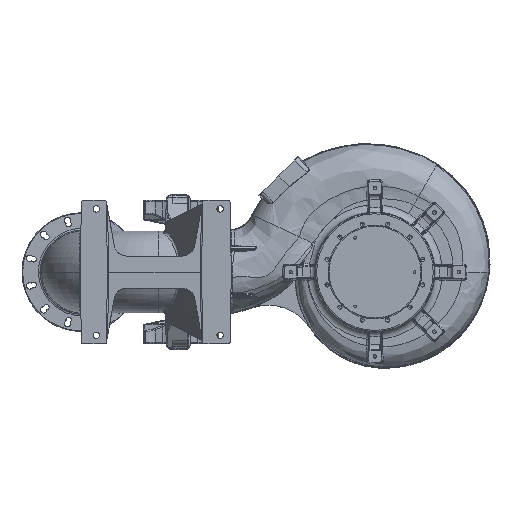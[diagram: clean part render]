
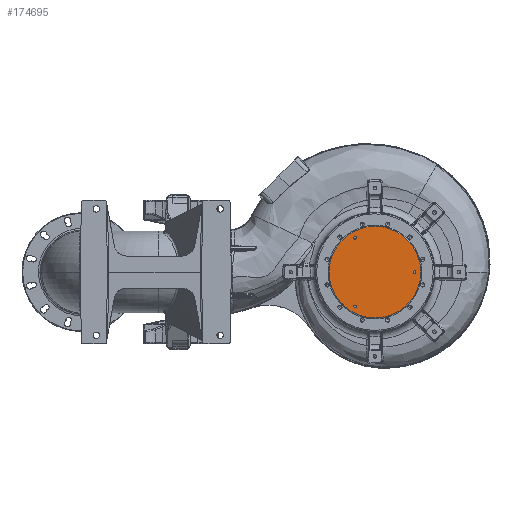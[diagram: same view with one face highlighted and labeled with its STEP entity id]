
A CAD part, front view. The second image highlights one B-rep face of the part: STEP entity #174695.
In plain terms, the highlighted planar face has unit normal (0, -1, 0).
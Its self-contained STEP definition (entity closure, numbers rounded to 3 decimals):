
#4983 = EDGE_CURVE ( 'NONE', #62776, #101580, #105221, .T. ) ;
#7238 = CARTESIAN_POINT ( 'NONE',  ( 785., 0., 0. ) ) ;
#8303 = DIRECTION ( 'NONE',  ( -1., 0., 0. ) ) ;
#13936 = DIRECTION ( 'NONE',  ( -1., 0., 0. ) ) ;
#14377 = CARTESIAN_POINT ( 'NONE',  ( 625., 0., 0. ) ) ;
#16866 = CARTESIAN_POINT ( 'NONE',  ( 550.1, 0., 138.564 ) ) ;
#17380 = VERTEX_POINT ( 'NONE', #43164 ) ;
#22667 = ORIENTED_EDGE ( 'NONE', *, *, #76229, .F. ) ;
#24255 = AXIS2_PLACEMENT_3D ( 'NONE', #14377, #144137, #32970 ) ;
#25773 = DIRECTION ( 'NONE',  ( -1., 0., 0. ) ) ;
#28595 = EDGE_CURVE ( 'NONE', #134896, #239122, #30715, .T. ) ;
#29616 = CIRCLE ( 'NONE', #164005, 5.1 ) ;
#30715 = CIRCLE ( 'NONE', #149480, 185. ) ;
#31295 = FACE_OUTER_BOUND ( 'NONE', #220974, .T. ) ;
#32970 = DIRECTION ( 'NONE',  ( 1., 0., 0. ) ) ;
#40539 = AXIS2_PLACEMENT_3D ( 'NONE', #191202, #80175, #209855 ) ;
#43164 = CARTESIAN_POINT ( 'NONE',  ( 779.9, 0., 0. ) ) ;
#45353 = DIRECTION ( 'NONE',  ( 0., 1., 0. ) ) ;
#47510 = AXIS2_PLACEMENT_3D ( 'NONE', #196055, #85054, #214629 ) ;
#56500 = CIRCLE ( 'NONE', #204563, 5.1 ) ;
#61343 = EDGE_CURVE ( 'NONE', #220607, #200053, #29616, .T. ) ;
#61414 = VERTEX_POINT ( 'NONE', #95581 ) ;
#62776 = VERTEX_POINT ( 'NONE', #213162 ) ;
#73968 = CARTESIAN_POINT ( 'NONE',  ( 545., 0., 138.564 ) ) ;
#74525 = CIRCLE ( 'NONE', #79352, 5.1 ) ;
#74584 = ORIENTED_EDGE ( 'NONE', *, *, #166115, .F. ) ;
#76229 = EDGE_CURVE ( 'NONE', #200053, #220607, #56500, .T. ) ;
#79352 = AXIS2_PLACEMENT_3D ( 'NONE', #7238, #136946, #25773 ) ;
#80175 = DIRECTION ( 'NONE',  ( 0., -1., 0. ) ) ;
#80782 = FACE_BOUND ( 'NONE', #151086, .T. ) ;
#85054 = DIRECTION ( 'NONE',  ( 0., 1., 0. ) ) ;
#85452 = ORIENTED_EDGE ( 'NONE', *, *, #132403, .F. ) ;
#90617 = ORIENTED_EDGE ( 'NONE', *, *, #177266, .F. ) ;
#92639 = DIRECTION ( 'NONE',  ( -1., 0., 0. ) ) ;
#93165 = CARTESIAN_POINT ( 'NONE',  ( 545., 0., 138.564 ) ) ;
#95581 = CARTESIAN_POINT ( 'NONE',  ( 790.1, 0., 0. ) ) ;
#101580 = VERTEX_POINT ( 'NONE', #226661 ) ;
#105221 = CIRCLE ( 'NONE', #40539, 5.1 ) ;
#111803 = DIRECTION ( 'NONE',  ( -1., 0., 0. ) ) ;
#119406 = DIRECTION ( 'NONE',  ( 0., -1., 0. ) ) ;
#121034 = CARTESIAN_POINT ( 'NONE',  ( 440., 0., 0. ) ) ;
#125069 = DIRECTION ( 'NONE',  ( 0., -1., 0. ) ) ;
#130049 = FACE_BOUND ( 'NONE', #130854, .T. ) ;
#130854 = EDGE_LOOP ( 'NONE', ( #232863, #74584 ) ) ;
#132403 = EDGE_CURVE ( 'NONE', #61414, #17380, #177784, .T. ) ;
#134896 = VERTEX_POINT ( 'NONE', #231928 ) ;
#136946 = DIRECTION ( 'NONE',  ( 0., -1., 0. ) ) ;
#144137 = DIRECTION ( 'NONE',  ( 0., 1., 0. ) ) ;
#149480 = AXIS2_PLACEMENT_3D ( 'NONE', #156481, #45353, #175124 ) ;
#151086 = EDGE_LOOP ( 'NONE', ( #208729, #85452 ) ) ;
#152766 = ORIENTED_EDGE ( 'NONE', *, *, #28595, .F. ) ;
#156481 = CARTESIAN_POINT ( 'NONE',  ( 625., 0., 0. ) ) ;
#164005 = AXIS2_PLACEMENT_3D ( 'NONE', #93165, #222717, #111803 ) ;
#164358 = EDGE_CURVE ( 'NONE', #17380, #61414, #74525, .T. ) ;
#166115 = EDGE_CURVE ( 'NONE', #101580, #62776, #189227, .T. ) ;
#166182 = ORIENTED_EDGE ( 'NONE', *, *, #61343, .F. ) ;
#174531 = AXIS2_PLACEMENT_3D ( 'NONE', #230323, #119406, #8303 ) ;
#174695 = ADVANCED_FACE ( 'NONE', ( #179362, #80782, #31295, #130049 ), #180627, .F. ) ;
#175124 = DIRECTION ( 'NONE',  ( 1., 0., 0. ) ) ;
#177266 = EDGE_CURVE ( 'NONE', #239122, #134896, #203563, .T. ) ;
#177784 = CIRCLE ( 'NONE', #184802, 5.1 ) ;
#179362 = FACE_BOUND ( 'NONE', #180400, .T. ) ;
#180400 = EDGE_LOOP ( 'NONE', ( #22667, #166182 ) ) ;
#180627 = PLANE ( 'NONE',  #24255 ) ;
#184802 = AXIS2_PLACEMENT_3D ( 'NONE', #236087, #125069, #13936 ) ;
#189227 = CIRCLE ( 'NONE', #174531, 5.1 ) ;
#191202 = CARTESIAN_POINT ( 'NONE',  ( 545., 0., -138.564 ) ) ;
#196055 = CARTESIAN_POINT ( 'NONE',  ( 625., 0., 0. ) ) ;
#200053 = VERTEX_POINT ( 'NONE', #214427 ) ;
#203563 = CIRCLE ( 'NONE', #47510, 185. ) ;
#203640 = DIRECTION ( 'NONE',  ( 0., -1., 0. ) ) ;
#204563 = AXIS2_PLACEMENT_3D ( 'NONE', #73968, #203640, #92639 ) ;
#208729 = ORIENTED_EDGE ( 'NONE', *, *, #164358, .F. ) ;
#209855 = DIRECTION ( 'NONE',  ( -1., 0., 0. ) ) ;
#213162 = CARTESIAN_POINT ( 'NONE',  ( 539.9, 0., -138.564 ) ) ;
#214427 = CARTESIAN_POINT ( 'NONE',  ( 539.9, 0., 138.564 ) ) ;
#214629 = DIRECTION ( 'NONE',  ( 1., 0., 0. ) ) ;
#220607 = VERTEX_POINT ( 'NONE', #16866 ) ;
#220974 = EDGE_LOOP ( 'NONE', ( #152766, #90617 ) ) ;
#222717 = DIRECTION ( 'NONE',  ( 0., -1., 0. ) ) ;
#226661 = CARTESIAN_POINT ( 'NONE',  ( 550.1, 0., -138.564 ) ) ;
#230323 = CARTESIAN_POINT ( 'NONE',  ( 545., 0., -138.564 ) ) ;
#231928 = CARTESIAN_POINT ( 'NONE',  ( 810., 0., 0. ) ) ;
#232863 = ORIENTED_EDGE ( 'NONE', *, *, #4983, .F. ) ;
#236087 = CARTESIAN_POINT ( 'NONE',  ( 785., 0., 0. ) ) ;
#239122 = VERTEX_POINT ( 'NONE', #121034 ) ;
